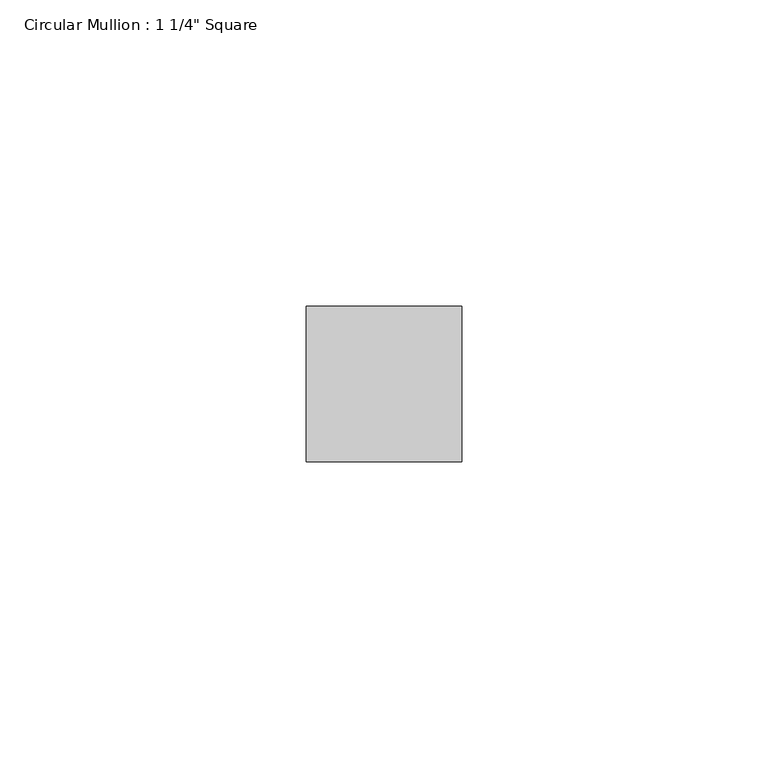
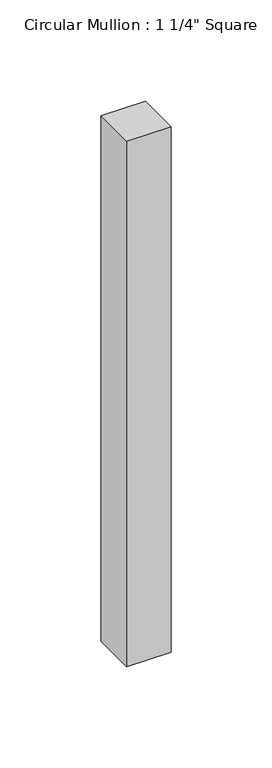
"""IFC4 building model written with IfcOpenShell, lengths in millimetres: member geometry."""

import ifcopenshell
import ifcopenshell.guid

model = None  # the IFC model being written
_history = None  # IfcOwnerHistory: only IFC2X3 demands one
_inside = {}  # id of a spatial element -> (the spatial element, [elements in it])
_under = {}  # id of a project, library or spatial element -> (it, [spatial elements below it])
_declared = {}  # id of a project -> (the project, [libraries it declares])
_typed = {}  # id of a type object -> (the type object, [elements of that type])
_made_of = {}  # id of a material, layer set ... -> (it, [elements and type objects made of it])


def new_model(schema):
    """Start an empty IFC model of exactly this schema.

    Asked for "IFC4X3", IfcOpenShell would pick the latest addendum, in which some entities
    have other attributes; the version numbers below select the first issue.
    IFC2X3 requires an IfcOwnerHistory on every rooted entity: one is made here for all.
    """
    global model, _history
    if schema == "IFC4X3":
        model = ifcopenshell.file(schema_version=(4, 3, 0, 0))
    else:
        model = ifcopenshell.file(schema=schema)
    _inside.clear()
    _under.clear()
    _declared.clear()
    _typed.clear()
    _made_of.clear()
    _history = None
    if model.schema == "IFC2X3":
        org = make("IfcOrganization", Name="unknown")
        user = make(
            "IfcPersonAndOrganization",
            ThePerson=make("IfcPerson", FamilyName="unknown"),
            TheOrganization=org,
        )
        app = make(
            "IfcApplication",
            ApplicationDeveloper=org,
            Version="unknown",
            ApplicationFullName="unknown",
            ApplicationIdentifier="unknown",
        )
        _history = make(
            "IfcOwnerHistory",
            OwningUser=user,
            OwningApplication=app,
            ChangeAction="ADDED",
            CreationDate=0,
        )
    return model


def make(cls, **values):
    """One entity of the class cls with the attributes given. An attribute that is None is left unset."""
    return model.create_entity(
        cls, **{name: value for name, value in values.items() if value is not None}
    )


def rooted(cls, **values):
    """An entity with a GlobalId (a new one), such as an element, a storey or a relation."""
    return make(cls, GlobalId=ifcopenshell.guid.new(), OwnerHistory=_history, **values)


def si_unit(unit_type, name, prefix=None):
    """IfcSIUnit, for example si_unit("LENGTHUNIT", "METRE", prefix="MILLI")."""
    return make("IfcSIUnit", UnitType=unit_type, Prefix=prefix, Name=name)


def assignment(units):
    """IfcUnitAssignment: the units of a project."""
    return None if units is None else make("IfcUnitAssignment", Units=units)


def point(xyz):
    """IfcCartesianPoint."""
    return None if xyz is None else make("IfcCartesianPoint", Coordinates=xyz)


def direction(xyz):
    """IfcDirection."""
    return None if xyz is None else make("IfcDirection", DirectionRatios=xyz)


def frame(location, z_axis=None, x_axis=None):
    """IfcAxis2Placement3D, a coordinate frame: its origin and axes. An axis left out is left unset."""
    return make(
        "IfcAxis2Placement3D",
        Location=point(location),
        Axis=direction(z_axis),
        RefDirection=direction(x_axis),
    )


def origin():
    """The frame at (0, 0, 0) with its axes left unset."""
    return frame((0.0, 0.0, 0.0))


def place(relative_to, where):
    """IfcLocalPlacement: puts the frame where relative to a parent placement (None: the world)."""
    return make(
        "IfcLocalPlacement", PlacementRelTo=relative_to, RelativePlacement=where
    )


def context(
    kind, dimensions, precision=None, world=None, true_north=None, identifier=None
):
    """IfcGeometricRepresentationContext, for example the 3D "Model" context."""
    return make(
        "IfcGeometricRepresentationContext",
        ContextIdentifier=identifier,
        ContextType=kind,
        CoordinateSpaceDimension=dimensions,
        Precision=precision,
        WorldCoordinateSystem=world,
        TrueNorth=true_north,
    )


def project(units=None, contexts=None):
    """IfcProject with its units and contexts."""
    return rooted(
        "IfcProject",
        Name="project",
        RepresentationContexts=contexts,
        UnitsInContext=assignment(units),
    )


def spatial(cls, under=None, at=None, **own):
    """A site, building, storey or space (cls), placed at a placement, below another one or the project."""
    s = rooted(cls, ObjectPlacement=at, **own)
    if under is not None:
        _under.setdefault(under.id(), (under, []))[1].append(s)
    return s


def polyline(points):
    """IfcPolyline through the points."""
    return make("IfcPolyline", Points=[point(p) for p in points])


def outline(outer, holes=None, kind="AREA"):
    """IfcArbitraryClosedProfileDef: a profile drawn as a closed curve; with holes, ...WithVoids."""
    if holes is None:
        return make("IfcArbitraryClosedProfileDef", ProfileType=kind, OuterCurve=outer)
    return make(
        "IfcArbitraryProfileDefWithVoids",
        ProfileType=kind,
        OuterCurve=outer,
        InnerCurves=holes,
    )


def extrude(swept, where, along, depth):
    """IfcExtrudedAreaSolid: the profile swept, set in the frame where, extruded along a direction by depth."""
    return make(
        "IfcExtrudedAreaSolid",
        SweptArea=swept,
        Position=where,
        ExtrudedDirection=direction(along),
        Depth=depth,
    )


def shape(context_of_items, identifier, shape_type, items):
    """IfcShapeRepresentation: the items that make up one representation, for example the "Body"."""
    return make(
        "IfcShapeRepresentation",
        ContextOfItems=context_of_items,
        RepresentationIdentifier=identifier,
        RepresentationType=shape_type,
        Items=items,
    )


def source(mapping_origin, context_of_items, identifier, shape_type, items):
    """IfcRepresentationMap: a shape defined once, which mapped items show again and again."""
    return make(
        "IfcRepresentationMap",
        MappingOrigin=mapping_origin,
        MappedRepresentation=shape(context_of_items, identifier, shape_type, items),
    )


def transform(
    local_origin,
    x_axis=None,
    y_axis=None,
    z_axis=None,
    scale=None,
    scale2=None,
    scale3=None,
    uniform=True,
):
    """IfcCartesianTransformationOperator3D, or its non-uniform kind. x_axis, y_axis, z_axis: its Axis1, 2, 3."""
    if uniform:
        return make(
            "IfcCartesianTransformationOperator3D",
            Axis1=direction(x_axis),
            Axis2=direction(y_axis),
            LocalOrigin=point(local_origin),
            Scale=scale,
            Axis3=direction(z_axis),
        )
    return make(
        "IfcCartesianTransformationOperator3DnonUniform",
        Axis1=direction(x_axis),
        Axis2=direction(y_axis),
        LocalOrigin=point(local_origin),
        Scale=scale,
        Axis3=direction(z_axis),
        Scale2=scale2,
        Scale3=scale3,
    )


def mapped(mapping_source, mapping_target):
    """IfcMappedItem: shows the shape of a source again, moved by a transform."""
    return make(
        "IfcMappedItem", MappingSource=mapping_source, MappingTarget=mapping_target
    )


def made_of(thing, what):
    """Note that an element or type object is made of a material, layer set ...; save() writes the relation."""
    if what is not None:
        _made_of.setdefault(what.id(), (what, []))[1].append(thing)
    return thing


def element(
    cls,
    number,
    at=None,
    inside=None,
    cuts=None,
    type_object=None,
    material=None,
    context=None,
    identifier="Body",
    shape_type=None,
    held_by="IfcProductDefinitionShape",
    body=None,
    shapes=None,
    **own,
):
    """One element of the class cls, such as IfcWall. Its Tag is "e" and its number.

    at: its placement. inside: the storey or other place that contains it. cuts: it is an
    opening in that element (IfcRelVoidsElement). A single representation is given by context,
    identifier, shape_type and body (its items); several are given by shapes. held_by: the class
    of the entity that holds the representations. save() writes the other relations.
    """
    e = rooted(cls, Tag="e%d" % number, ObjectPlacement=at, **own)
    if body is not None:
        shapes = [shape(context, identifier, shape_type, body)]
    if shapes is not None:
        e.Representation = make(held_by, Representations=shapes)
    if inside is not None:
        _inside.setdefault(inside.id(), (inside, []))[1].append(e)
    if cuts is not None:
        rooted(
            "IfcRelVoidsElement", RelatingBuildingElement=cuts, RelatedOpeningElement=e
        )
    if type_object is not None:
        _typed.setdefault(type_object.id(), (type_object, []))[1].append(e)
    return made_of(e, material)


def aggregate(whole, parts):
    """IfcRelAggregates: a whole, such as a stair, and the parts it consists of."""
    return rooted("IfcRelAggregates", RelatingObject=whole, RelatedObjects=parts)


def save(model, path):
    """Write the relations noted so far, then the file.

    IfcRelAggregates (storeys below a building ...), IfcRelContainedInSpatialStructure (elements
    in a storey), IfcRelDefinesByType, IfcRelAssociatesMaterial and IfcRelDeclares: one each for
    every whole, place, type object, material and project.
    """
    for whole, parts in _under.values():
        aggregate(whole, parts)
    for where, things in _inside.values():
        rooted(
            "IfcRelContainedInSpatialStructure",
            RelatedElements=things,
            RelatingStructure=where,
        )
    for kind, things in _typed.values():
        rooted("IfcRelDefinesByType", RelatedObjects=things, RelatingType=kind)
    for what, things in _made_of.values():
        rooted("IfcRelAssociatesMaterial", RelatedObjects=things, RelatingMaterial=what)
    for by, libraries in _declared.values():
        rooted("IfcRelDeclares", RelatingContext=by, RelatedDefinitions=libraries)
    model.write(path)


def member_9ec6e97d(model_context):
    return source(origin(), model_context, "Body", "SweptSolid", [
        extrude(outline(polyline([(0.0, 12.7), (0.0, -12.7), (-25.4, -12.7), (-25.4, 12.7), (0.0, 12.7)])), frame((0.0, 0.0, -317.5000003), z_axis=(0.0, 0.0, 1.0), x_axis=(1.0, 0.0, 0.0)), (0.0, 0.0, 1.0), 317.5000003),
    ])


if __name__ == "__main__":
    model = new_model("IFC4")
    model_context = context("Model", 3, world=origin())
    ifc_project = project(units=[si_unit("LENGTHUNIT", "METRE", prefix="MILLI")], contexts=[model_context])
    site = spatial("IfcSite", under=ifc_project)
    building = spatial("IfcBuilding", under=site)
    placement = place(None, origin())
    member_shape = member_9ec6e97d(model_context)
    element("IfcMember", 1, ObjectType="Circular Mullion : 1 1/4\" Square", at=placement, inside=building, context=model_context, shape_type="MappedRepresentation", body=[
        mapped(member_shape, transform((0.0, 0.0, 0.0), x_axis=(1.0, 0.0, 0.0), y_axis=(0.0, 1.0, 0.0), z_axis=(0.0, 0.0, 1.0))),
    ])
    save(model, "model.ifc")
